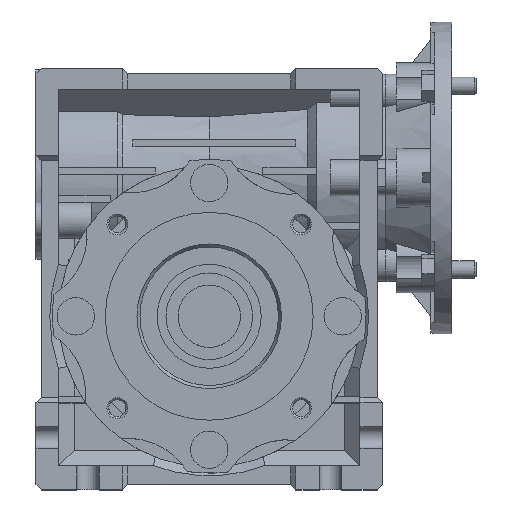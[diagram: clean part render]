
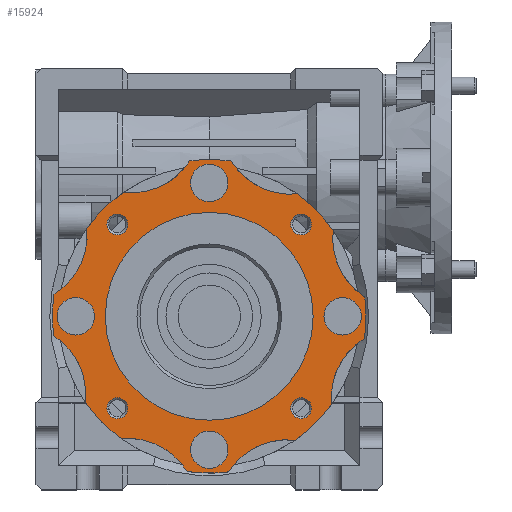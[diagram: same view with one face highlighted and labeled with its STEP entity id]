
A CAD part, top view. The second image highlights one B-rep face of the part: STEP entity #15924.
In plain terms, the highlighted planar face has unit normal (0, 0, 1) as drawn and (-1, 0, 0) by its records, which use the part's own axes.
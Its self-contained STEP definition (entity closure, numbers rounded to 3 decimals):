
#745=CIRCLE('',#16786,43.5);
#749=CIRCLE('',#16791,43.5);
#754=CIRCLE('',#16797,43.5);
#913=CIRCLE('',#17195,43.5);
#914=CIRCLE('',#17197,20.);
#915=CIRCLE('',#17199,20.);
#916=CIRCLE('',#17201,20.);
#917=CIRCLE('',#17203,20.);
#918=CIRCLE('',#17205,20.);
#919=CIRCLE('',#17207,20.);
#920=CIRCLE('',#17209,20.);
#921=CIRCLE('',#17211,20.);
#922=CIRCLE('',#17213,45.25);
#923=CIRCLE('',#17215,45.25);
#924=CIRCLE('',#17217,45.25);
#925=CIRCLE('',#17219,45.25);
#926=CIRCLE('',#17221,3.);
#927=CIRCLE('',#17222,3.);
#928=CIRCLE('',#17223,3.);
#929=CIRCLE('',#17224,3.);
#930=CIRCLE('',#17225,5.4);
#931=CIRCLE('',#17226,5.4);
#932=CIRCLE('',#17227,5.4);
#933=CIRCLE('',#17228,5.4);
#934=CIRCLE('',#17229,30.);
#3422=ORIENTED_EDGE('',*,*,#7268,.T.);
#3423=ORIENTED_EDGE('',*,*,#7269,.T.);
#3424=ORIENTED_EDGE('',*,*,#7270,.T.);
#3425=ORIENTED_EDGE('',*,*,#7271,.T.);
#3426=ORIENTED_EDGE('',*,*,#7272,.T.);
#3427=ORIENTED_EDGE('',*,*,#7273,.T.);
#3428=ORIENTED_EDGE('',*,*,#7274,.T.);
#3429=ORIENTED_EDGE('',*,*,#7275,.T.);
#3430=ORIENTED_EDGE('',*,*,#7276,.T.);
#3431=ORIENTED_EDGE('',*,*,#7248,.T.);
#3432=ORIENTED_EDGE('',*,*,#6645,.F.);
#3433=ORIENTED_EDGE('',*,*,#7251,.T.);
#3434=ORIENTED_EDGE('',*,*,#7264,.F.);
#3435=ORIENTED_EDGE('',*,*,#7252,.T.);
#3436=ORIENTED_EDGE('',*,*,#6625,.F.);
#3437=ORIENTED_EDGE('',*,*,#7255,.T.);
#3438=ORIENTED_EDGE('',*,*,#7265,.F.);
#3439=ORIENTED_EDGE('',*,*,#7256,.T.);
#3440=ORIENTED_EDGE('',*,*,#6633,.F.);
#3441=ORIENTED_EDGE('',*,*,#7259,.T.);
#3442=ORIENTED_EDGE('',*,*,#7266,.F.);
#3443=ORIENTED_EDGE('',*,*,#7260,.T.);
#3444=ORIENTED_EDGE('',*,*,#7244,.F.);
#3445=ORIENTED_EDGE('',*,*,#7263,.T.);
#3446=ORIENTED_EDGE('',*,*,#7267,.F.);
#6625=EDGE_CURVE('',#8882,#8883,#745,.T.);
#6633=EDGE_CURVE('',#8890,#8891,#749,.T.);
#6645=EDGE_CURVE('',#8902,#8903,#754,.T.);
#7244=EDGE_CURVE('',#9220,#9221,#913,.T.);
#7248=EDGE_CURVE('',#9222,#8903,#914,.T.);
#7251=EDGE_CURVE('',#8902,#9223,#915,.T.);
#7252=EDGE_CURVE('',#9224,#8883,#916,.T.);
#7255=EDGE_CURVE('',#8882,#9225,#917,.T.);
#7256=EDGE_CURVE('',#9226,#8891,#918,.T.);
#7259=EDGE_CURVE('',#8890,#9227,#919,.T.);
#7260=EDGE_CURVE('',#9228,#9221,#920,.T.);
#7263=EDGE_CURVE('',#9220,#9229,#921,.T.);
#7264=EDGE_CURVE('',#9224,#9223,#922,.T.);
#7265=EDGE_CURVE('',#9226,#9225,#923,.T.);
#7266=EDGE_CURVE('',#9228,#9227,#924,.T.);
#7267=EDGE_CURVE('',#9222,#9229,#925,.T.);
#7268=EDGE_CURVE('',#9230,#9230,#926,.T.);
#7269=EDGE_CURVE('',#9231,#9231,#927,.T.);
#7270=EDGE_CURVE('',#9232,#9232,#928,.T.);
#7271=EDGE_CURVE('',#9233,#9233,#929,.T.);
#7272=EDGE_CURVE('',#9234,#9234,#930,.T.);
#7273=EDGE_CURVE('',#9235,#9235,#931,.T.);
#7274=EDGE_CURVE('',#9236,#9236,#932,.T.);
#7275=EDGE_CURVE('',#9237,#9237,#933,.T.);
#7276=EDGE_CURVE('',#9238,#9238,#934,.T.);
#8882=VERTEX_POINT('',#24280);
#8883=VERTEX_POINT('',#24282);
#8890=VERTEX_POINT('',#24297);
#8891=VERTEX_POINT('',#24299);
#8902=VERTEX_POINT('',#24325);
#8903=VERTEX_POINT('',#24327);
#9220=VERTEX_POINT('',#25630);
#9221=VERTEX_POINT('',#25632);
#9222=VERTEX_POINT('',#25638);
#9223=VERTEX_POINT('',#25642);
#9224=VERTEX_POINT('',#25646);
#9225=VERTEX_POINT('',#25650);
#9226=VERTEX_POINT('',#25654);
#9227=VERTEX_POINT('',#25658);
#9228=VERTEX_POINT('',#25662);
#9229=VERTEX_POINT('',#25666);
#9230=VERTEX_POINT('',#25678);
#9231=VERTEX_POINT('',#25680);
#9232=VERTEX_POINT('',#25682);
#9233=VERTEX_POINT('',#25684);
#9234=VERTEX_POINT('',#25686);
#9235=VERTEX_POINT('',#25688);
#9236=VERTEX_POINT('',#25690);
#9237=VERTEX_POINT('',#25692);
#9238=VERTEX_POINT('',#25694);
#13213=EDGE_LOOP('',(#3422));
#13214=EDGE_LOOP('',(#3423));
#13215=EDGE_LOOP('',(#3424));
#13216=EDGE_LOOP('',(#3425));
#13217=EDGE_LOOP('',(#3426));
#13218=EDGE_LOOP('',(#3427));
#13219=EDGE_LOOP('',(#3428));
#13220=EDGE_LOOP('',(#3429));
#13221=EDGE_LOOP('',(#3430));
#13222=EDGE_LOOP('',(#3431,#3432,#3433,#3434,#3435,#3436,#3437,#3438,#3439,
#3440,#3441,#3442,#3443,#3444,#3445,#3446));
#14272=FACE_BOUND('',#13213,.T.);
#14273=FACE_BOUND('',#13214,.T.);
#14274=FACE_BOUND('',#13215,.T.);
#14275=FACE_BOUND('',#13216,.T.);
#14276=FACE_BOUND('',#13217,.T.);
#14277=FACE_BOUND('',#13218,.T.);
#14278=FACE_BOUND('',#13219,.T.);
#14279=FACE_BOUND('',#13220,.T.);
#14280=FACE_BOUND('',#13221,.T.);
#14281=FACE_BOUND('',#13222,.T.);
#15205=PLANE('',#17220);
#15924=ADVANCED_FACE('',(#14272,#14273,#14274,#14275,#14276,#14277,#14278,
#14279,#14280,#14281),#15205,.F.);
#16786=AXIS2_PLACEMENT_3D('',#24281,#19086,#19087);
#16791=AXIS2_PLACEMENT_3D('',#24298,#19100,#19101);
#16797=AXIS2_PLACEMENT_3D('',#24326,#19118,#19119);
#17195=AXIS2_PLACEMENT_3D('',#25631,#20295,#20296);
#17197=AXIS2_PLACEMENT_3D('',#25637,#20302,#20303);
#17199=AXIS2_PLACEMENT_3D('',#25643,#20308,#20309);
#17201=AXIS2_PLACEMENT_3D('',#25645,#20312,#20313);
#17203=AXIS2_PLACEMENT_3D('',#25651,#20318,#20319);
#17205=AXIS2_PLACEMENT_3D('',#25653,#20322,#20323);
#17207=AXIS2_PLACEMENT_3D('',#25659,#20328,#20329);
#17209=AXIS2_PLACEMENT_3D('',#25661,#20332,#20333);
#17211=AXIS2_PLACEMENT_3D('',#25667,#20338,#20339);
#17213=AXIS2_PLACEMENT_3D('',#25669,#20342,#20343);
#17215=AXIS2_PLACEMENT_3D('',#25671,#20346,#20347);
#17217=AXIS2_PLACEMENT_3D('',#25673,#20350,#20351);
#17219=AXIS2_PLACEMENT_3D('',#25675,#20354,#20355);
#17220=AXIS2_PLACEMENT_3D('',#25676,#20356,#20357);
#17221=AXIS2_PLACEMENT_3D('',#25677,#20358,#20359);
#17222=AXIS2_PLACEMENT_3D('',#25679,#20360,#20361);
#17223=AXIS2_PLACEMENT_3D('',#25681,#20362,#20363);
#17224=AXIS2_PLACEMENT_3D('',#25683,#20364,#20365);
#17225=AXIS2_PLACEMENT_3D('',#25685,#20366,#20367);
#17226=AXIS2_PLACEMENT_3D('',#25687,#20368,#20369);
#17227=AXIS2_PLACEMENT_3D('',#25689,#20370,#20371);
#17228=AXIS2_PLACEMENT_3D('',#25691,#20372,#20373);
#17229=AXIS2_PLACEMENT_3D('',#25693,#20374,#20375);
#19086=DIRECTION('',(1.,0.,0.));
#19087=DIRECTION('',(0.,0.,-1.));
#19100=DIRECTION('',(1.,0.,0.));
#19101=DIRECTION('',(0.,0.,-1.));
#19118=DIRECTION('',(1.,0.,0.));
#19119=DIRECTION('',(0.,0.,-1.));
#20295=DIRECTION('',(1.,0.,0.));
#20296=DIRECTION('',(0.,0.,-1.));
#20302=DIRECTION('',(1.,0.,0.));
#20303=DIRECTION('',(0.,0.,-1.));
#20308=DIRECTION('',(1.,0.,0.));
#20309=DIRECTION('',(0.,0.,-1.));
#20312=DIRECTION('',(1.,0.,0.));
#20313=DIRECTION('',(0.,0.,-1.));
#20318=DIRECTION('',(1.,0.,0.));
#20319=DIRECTION('',(0.,0.,-1.));
#20322=DIRECTION('',(1.,0.,0.));
#20323=DIRECTION('',(0.,0.,-1.));
#20328=DIRECTION('',(1.,0.,0.));
#20329=DIRECTION('',(0.,0.,-1.));
#20332=DIRECTION('',(1.,0.,0.));
#20333=DIRECTION('',(0.,0.,-1.));
#20338=DIRECTION('',(1.,0.,0.));
#20339=DIRECTION('',(0.,0.,-1.));
#20342=DIRECTION('',(1.,0.,0.));
#20343=DIRECTION('',(0.,0.,-1.));
#20346=DIRECTION('',(1.,0.,0.));
#20347=DIRECTION('',(0.,0.,-1.));
#20350=DIRECTION('',(1.,0.,0.));
#20351=DIRECTION('',(0.,0.,-1.));
#20354=DIRECTION('',(1.,0.,0.));
#20355=DIRECTION('',(0.,0.,-1.));
#20356=DIRECTION('',(1.,0.,0.));
#20357=DIRECTION('',(0.,0.,-1.));
#20358=DIRECTION('',(1.,0.,0.));
#20359=DIRECTION('',(0.,0.,-1.));
#20360=DIRECTION('',(1.,0.,0.));
#20361=DIRECTION('',(0.,0.,-1.));
#20362=DIRECTION('',(1.,0.,0.));
#20363=DIRECTION('',(0.,0.,-1.));
#20364=DIRECTION('',(1.,0.,0.));
#20365=DIRECTION('',(0.,0.,-1.));
#20366=DIRECTION('',(1.,0.,0.));
#20367=DIRECTION('',(0.,0.,-1.));
#20368=DIRECTION('',(1.,0.,0.));
#20369=DIRECTION('',(0.,0.,-1.));
#20370=DIRECTION('',(1.,0.,0.));
#20371=DIRECTION('',(0.,0.,-1.));
#20372=DIRECTION('',(1.,0.,0.));
#20373=DIRECTION('',(0.,0.,-1.));
#20374=DIRECTION('',(1.,0.,0.));
#20375=DIRECTION('',(0.,0.,-1.));
#24280=CARTESIAN_POINT('',(-36.5,25.385,-35.325));
#24281=CARTESIAN_POINT('',(-36.5,0.,0.));
#24282=CARTESIAN_POINT('',(-36.5,35.762,-24.765));
#24297=CARTESIAN_POINT('',(-36.5,-35.325,-25.385));
#24298=CARTESIAN_POINT('',(-36.5,0.,0.));
#24299=CARTESIAN_POINT('',(-36.5,-24.765,-35.762));
#24325=CARTESIAN_POINT('',(-36.5,35.325,25.385));
#24326=CARTESIAN_POINT('',(-36.5,0.,0.));
#24327=CARTESIAN_POINT('',(-36.5,24.765,35.762));
#25630=CARTESIAN_POINT('',(-36.5,-25.385,35.325));
#25631=CARTESIAN_POINT('',(-36.5,0.,0.));
#25632=CARTESIAN_POINT('',(-36.5,-35.762,24.765));
#25637=CARTESIAN_POINT('',(-36.5,22.476,55.631));
#25638=CARTESIAN_POINT('',(-36.5,5.597,44.902));
#25642=CARTESIAN_POINT('',(-36.5,44.798,6.38));
#25643=CARTESIAN_POINT('',(-36.5,55.23,23.444));
#25645=CARTESIAN_POINT('',(-36.5,55.631,-22.476));
#25646=CARTESIAN_POINT('',(-36.5,44.902,-5.597));
#25650=CARTESIAN_POINT('',(-36.5,6.38,-44.798));
#25651=CARTESIAN_POINT('',(-36.5,23.444,-55.23));
#25653=CARTESIAN_POINT('',(-36.5,-22.476,-55.631));
#25654=CARTESIAN_POINT('',(-36.5,-5.597,-44.902));
#25658=CARTESIAN_POINT('',(-36.5,-44.798,-6.38));
#25659=CARTESIAN_POINT('',(-36.5,-55.23,-23.444));
#25661=CARTESIAN_POINT('',(-36.5,-55.631,22.476));
#25662=CARTESIAN_POINT('',(-36.5,-44.902,5.597));
#25666=CARTESIAN_POINT('',(-36.5,-6.38,44.798));
#25667=CARTESIAN_POINT('',(-36.5,-23.444,55.23));
#25669=CARTESIAN_POINT('',(-36.5,0.,0.));
#25671=CARTESIAN_POINT('',(-36.5,0.,0.));
#25673=CARTESIAN_POINT('',(-36.5,0.,0.));
#25675=CARTESIAN_POINT('',(-36.5,0.,0.));
#25676=CARTESIAN_POINT('',(-36.5,11.238,27.816));
#25677=CARTESIAN_POINT('',(-36.5,26.517,26.517));
#25678=CARTESIAN_POINT('',(-36.5,26.517,23.517));
#25679=CARTESIAN_POINT('',(-36.5,-26.517,26.517));
#25680=CARTESIAN_POINT('',(-36.5,-26.517,23.517));
#25681=CARTESIAN_POINT('',(-36.5,-26.517,-26.517));
#25682=CARTESIAN_POINT('',(-36.5,-26.517,-29.517));
#25683=CARTESIAN_POINT('',(-36.5,26.517,-26.517));
#25684=CARTESIAN_POINT('',(-36.5,26.517,-29.517));
#25685=CARTESIAN_POINT('',(-36.5,0.,38.5));
#25686=CARTESIAN_POINT('',(-36.5,0.,33.1));
#25687=CARTESIAN_POINT('',(-36.5,-38.5,0.));
#25688=CARTESIAN_POINT('',(-36.5,-38.5,-5.4));
#25689=CARTESIAN_POINT('',(-36.5,0.,-38.5));
#25690=CARTESIAN_POINT('',(-36.5,0.,-43.9));
#25691=CARTESIAN_POINT('',(-36.5,38.5,0.));
#25692=CARTESIAN_POINT('',(-36.5,38.5,-5.4));
#25693=CARTESIAN_POINT('',(-36.5,0.,0.));
#25694=CARTESIAN_POINT('',(-36.5,0.,-30.));
